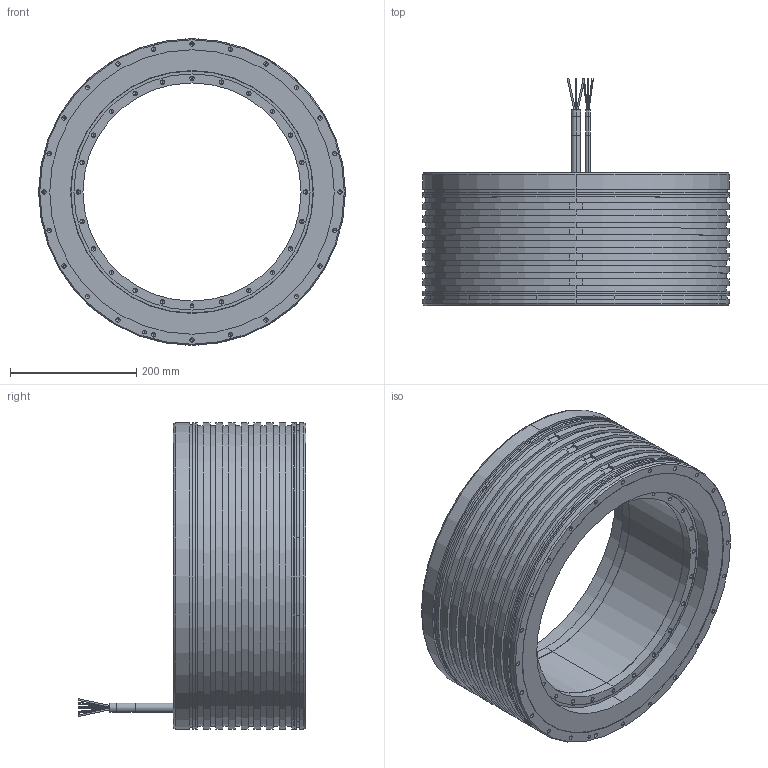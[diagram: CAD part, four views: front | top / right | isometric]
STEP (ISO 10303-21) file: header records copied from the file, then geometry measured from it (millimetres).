
FILE_DESCRIPTION (( 'STEP AP203' ), '1' );
FILE_NAME ('TM-2-DF.STEP', '2023-08-03T03:09:13', ( '' ), ( '' ), 'SwSTEP 2.0', 'SolidWorks 2015', '' );
FILE_SCHEMA (( 'CONFIG_CONTROL_DESIGN' ));
Length unit declared in the file: millimetre
Products named in the file (3): TM-2-DX_rotor_TM-2-DF_rotor; TM-2-DF; TM-2-DX_stator_TM-2-DF_stator
Assembly tree (2 placements, depth 2):
  TM-2-DF
    TM-2-DX_stator_TM-2-DF_stator
    TM-2-DX_rotor_TM-2-DF_rotor
Bounding box: 485 x 360.29 x 485 mm (x, y, z)
Volume: 16927583.6 mm3; surface area: 1274974.5 mm2
Topology: 2 solids, 2 shells, 568 faces, 1368 edges, 734 vertices
Faces by surface type: cylinder 295, cone 204, plane 69
Entity records: 15425 total; most frequent: DIRECTION 2856, CARTESIAN_POINT 2621, ORIENTED_EDGE 2344, EDGE_CURVE 1172, AXIS2_PLACEMENT_3D 1139, VERTEX_POINT 734, EDGE_LOOP 700, VECTOR 578
